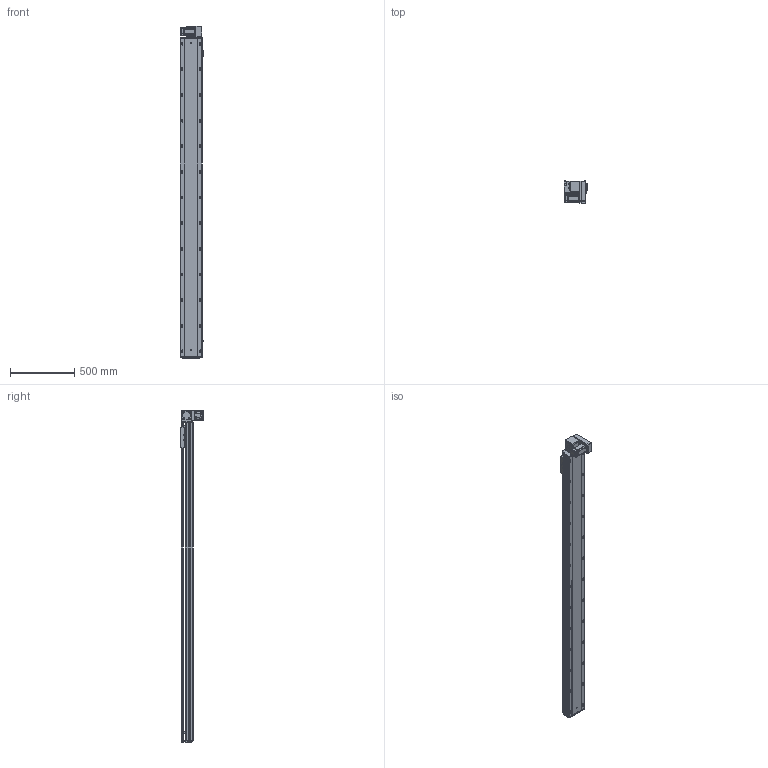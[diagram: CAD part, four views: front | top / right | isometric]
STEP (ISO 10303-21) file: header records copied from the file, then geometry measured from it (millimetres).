
FILE_DESCRIPTION (( 'STEP AP203' ), '1' );
FILE_NAME ('RY170-T-300-DR-P400W.SLDASM_2200.step', '2021-03-01T08:25:13', ( '盈信电脑' ), ( '东莞市道滘镇水果街19号' ), 'SwSTEP 2.0', 'SolidWorks 2012', '' );
FILE_SCHEMA (( 'CONFIG_CONTROL_DESIGN' ));
Length unit declared in the file: millimetre
Products named in the file (19): RY170同步轮电机安装板(400W); RY170肮祭謫ヶ裔啣; RY170翋肮祭謫釱; RY170外置感应片(200共用）; 覜茼ん672; RY170綴裔啣; RY170肮祭湍臏賑輸; RY170-T-300肮祭謫倰第裔啣-DR_2200; RY170-T-300肮祭謫倰第菁釱-DR_2200; RY170-T-300-DR-P400W.SLDASM_2200; 15; 滅袉蝶18-10; RY170-T-呴雄粣揤踡啣; RY170-T肮祭謫裔啣; RY170-T蹟翐M4; RY120-T主同步轮轴承压盖; RY170-T肮祭湍揤踡輸2; RY170-T肮祭湍揤踡輸1; RY170肮祭謫萇儂欶
Assembly tree (23 placements, depth 2):
  RY170-T-300-DR-P400W.SLDASM_2200
    RY170-T-300肮祭謫倰第菁釱-DR_2200
    RY170肮祭湍臏賑輸
    RY170-T-300肮祭謫倰第裔啣-DR_2200
    RY170綴裔啣
    覜茼ん672  x3
    RY170外置感应片(200共用）
    RY170肮祭謫ヶ裔啣
    RY170翋肮祭謫釱
    RY170同步轮电机安装板(400W)
    RY170肮祭謫萇儂欶
    RY170-T肮祭湍揤踡輸1  x2
    RY170-T肮祭湍揤踡輸2  x2
    RY120-T主同步轮轴承压盖
    RY170-T肮祭謫裔啣
    RY170-T蹟翐M4
    滅袉蝶18-10  x2
    RY170-T-呴雄粣揤踡啣
    15
Bounding box: 183.7 x 178 x 2588 mm (x, y, z)
Volume: 11918519.6 mm3; surface area: 4116433.9 mm2
Topology: 23 solids, 23 shells, 3082 faces, 8666 edges, 5519 vertices
Faces by surface type: cylinder 1456, plane 1276, cone 320, bspline 30
Entity records: 94477 total; most frequent: CARTESIAN_POINT 22111, ORIENTED_EDGE 14872, DIRECTION 14448, EDGE_CURVE 7436, AXIS2_PLACEMENT_3D 5146, VERTEX_POINT 4875, VECTOR 4156, LINE 4156
